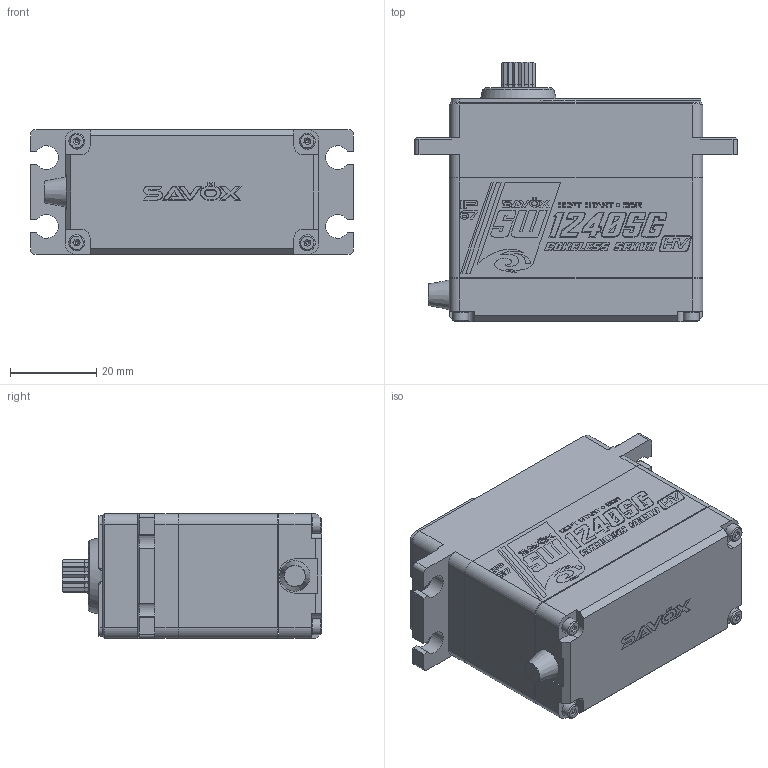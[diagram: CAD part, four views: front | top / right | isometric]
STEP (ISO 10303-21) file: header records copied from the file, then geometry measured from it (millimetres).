
FILE_DESCRIPTION (( 'STEP AP214' ), '1' );
FILE_NAME ('SW-1240SG_3D??+??.STEP', '2025-05-08T10:02:26', ( '' ), ( '' ), 'SwSTEP 2.0', 'SolidWorks 2024', '' );
FILE_SCHEMA (( 'AUTOMOTIVE_DESIGN' ));
Length unit declared in the file: millimetre
Products named in the file (1): SW-1240SG_3D零件+齒輪
Bounding box: 75 x 60.35 x 29 mm (x, y, z)
Volume: 89621.2 mm3; surface area: 14434.4 mm2
Topology: 1 solids, 1 shells, 517 faces, 3164 edges, 2845 vertices
Faces by surface type: plane 354, cylinder 79, cone 71, bspline 13
Full cylindrical faces by diameter (mm): 2.2 x8, 2.5 x1, 3.7 x4, 8.5 x1
Entity records: 39809 total; most frequent: CARTESIAN_POINT 10170, ORIENTED_EDGE 6244, DIRECTION 3403, EDGE_CURVE 3122, VERTEX_POINT 2829, LINE 2009, VECTOR 2009, B_SPLINE_CURVE_WITH_KNOTS 901
